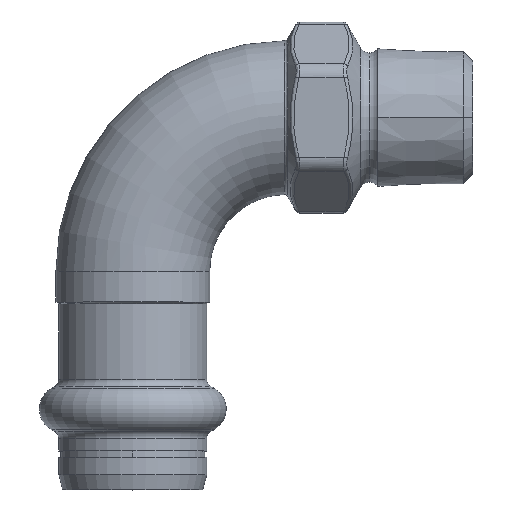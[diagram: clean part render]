
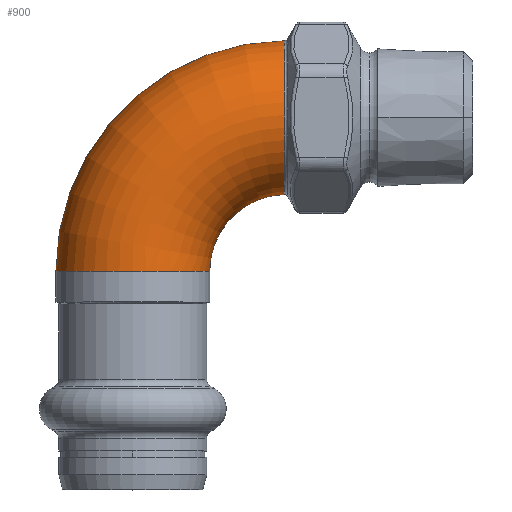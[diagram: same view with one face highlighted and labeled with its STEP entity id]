
A CAD part, top view. The second image highlights one B-rep face of the part: STEP entity #900.
In plain terms, the highlighted toroidal (fillet/blend) face has major radius 19 mm and minor radius 9.5 mm.
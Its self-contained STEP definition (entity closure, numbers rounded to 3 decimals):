
#45 = DIRECTION ( 'NONE',  ( 0., 0., 1. ) ) ;
#80 = AXIS2_PLACEMENT_3D ( 'NONE', #2177, #45, #2549 ) ;
#105 = DIRECTION ( 'NONE',  ( 0., 1., 0. ) ) ;
#206 = CARTESIAN_POINT ( 'NONE',  ( 18.698, -9.505, 0. ) ) ;
#208 = CARTESIAN_POINT ( 'NONE',  ( 18.704, -7.046, 6.405 ) ) ;
#226 = CARTESIAN_POINT ( 'NONE',  ( 18.711, -0.106, 9.504 ) ) ;
#235 = AXIS2_PLACEMENT_3D ( 'NONE', #3749, #4483, #2324 ) ;
#242 = CARTESIAN_POINT ( 'NONE',  ( 18.715, 7.668, 5.638 ) ) ;
#251 = AXIS2_PLACEMENT_3D ( 'NONE', #1404, #3917, #1772 ) ;
#543 = FACE_OUTER_BOUND ( 'NONE', #638, .T. ) ;
#545 = CARTESIAN_POINT ( 'NONE',  ( 18.698, -9.389, 1.599 ) ) ;
#567 = CARTESIAN_POINT ( 'NONE',  ( 18.705, -5.94, 7.423 ) ) ;
#584 = CARTESIAN_POINT ( 'NONE',  ( 18.712, 1.098, 9.455 ) ) ;
#597 = CARTESIAN_POINT ( 'NONE',  ( 18.715, 8.597, 4.084 ) ) ;
#609 = EDGE_CURVE ( 'NONE', #2268, #2518, #3086, .T. ) ;
#638 = EDGE_LOOP ( 'NONE', ( #2594, #4322, #4371, #1501, #4378 ) ) ;
#900 = ADVANCED_FACE ( 'NONE', ( #543 ), #4114, .T. ) ;
#913 = CARTESIAN_POINT ( 'NONE',  ( 18.706, -5.208, 7.953 ) ) ;
#931 = CARTESIAN_POINT ( 'NONE',  ( 18.713, 2.854, 9.08 ) ) ;
#951 = CARTESIAN_POINT ( 'NONE',  ( 18.715, 9.028, 2.968 ) ) ;
#1122 = CARTESIAN_POINT ( 'NONE',  ( 18.715, 9.499, 0. ) ) ;
#1252 = CARTESIAN_POINT ( 'NONE',  ( 18.699, -9.267, 2.197 ) ) ;
#1268 = CARTESIAN_POINT ( 'NONE',  ( 18.698, -9.47, 0.834 ) ) ;
#1271 = CARTESIAN_POINT ( 'NONE',  ( 18.708, -4.168, 8.543 ) ) ;
#1283 = CARTESIAN_POINT ( 'NONE',  ( 18.714, 4.519, 8.377 ) ) ;
#1297 = CARTESIAN_POINT ( 'NONE',  ( 18.715, 9.269, 2.096 ) ) ;
#1392 = EDGE_CURVE ( 'NONE', #2518, #3904, #2794, .T. ) ;
#1404 = CARTESIAN_POINT ( 'NONE',  ( 19., -19., 0. ) ) ;
#1475 = CIRCLE ( 'NONE', #2651, 9.5 ) ;
#1501 = ORIENTED_EDGE ( 'NONE', *, *, #1985, .F. ) ;
#1543 = EDGE_CURVE ( 'NONE', #3904, #3570, #1475, .T. ) ;
#1621 = CARTESIAN_POINT ( 'NONE',  ( 18.7, -8.689, 3.897 ) ) ;
#1631 = CARTESIAN_POINT ( 'NONE',  ( 18.709, -3.338, 8.9 ) ) ;
#1646 = CARTESIAN_POINT ( 'NONE',  ( 18.714, 5.771, 7.551 ) ) ;
#1666 = CARTESIAN_POINT ( 'NONE',  ( 18.715, 9.499, 0.606 ) ) ;
#1737 = B_SPLINE_CURVE_WITH_KNOTS ( 'NONE', 3,
 ( #206, #4113, #3421, #1268, #3773 ),
 .UNSPECIFIED., .F., .F.,
 ( 4, 1, 4 ),
 ( 0.03, 0.031, 0.031 ),
 .UNSPECIFIED. ) ;
#1772 = DIRECTION ( 'NONE',  ( 1., 0., 0. ) ) ;
#1829 = CARTESIAN_POINT ( 'NONE',  ( -9.5, -19., 0. ) ) ;
#1831 = VERTEX_POINT ( 'NONE', #2835 ) ;
#1985 = EDGE_CURVE ( 'NONE', #1831, #3570, #3334, .T. ) ;
#1991 = CARTESIAN_POINT ( 'NONE',  ( 18.702, -8.114, 4.957 ) ) ;
#2000 = CARTESIAN_POINT ( 'NONE',  ( 18.71, -1.897, 9.328 ) ) ;
#2019 = CARTESIAN_POINT ( 'NONE',  ( 18.715, 6.464, 6.967 ) ) ;
#2177 = CARTESIAN_POINT ( 'NONE',  ( 19., -19., 0. ) ) ;
#2191 = EDGE_CURVE ( 'NONE', #1831, #2268, #1737, .T. ) ;
#2236 = CARTESIAN_POINT ( 'NONE',  ( 0., -19., 0. ) ) ;
#2268 = VERTEX_POINT ( 'NONE', #2751 ) ;
#2324 = DIRECTION ( 'NONE',  ( 1., 0., 0. ) ) ;
#2332 = CARTESIAN_POINT ( 'NONE',  ( 9.5, -19., 0. ) ) ;
#2344 = CARTESIAN_POINT ( 'NONE',  ( 18.703, -7.607, 5.704 ) ) ;
#2360 = CARTESIAN_POINT ( 'NONE',  ( 18.711, -0.709, 9.478 ) ) ;
#2376 = CARTESIAN_POINT ( 'NONE',  ( 18.715, 7.298, 6.109 ) ) ;
#2518 = VERTEX_POINT ( 'NONE', #1122 ) ;
#2549 = DIRECTION ( 'NONE',  ( 1., 0., 0. ) ) ;
#2594 = ORIENTED_EDGE ( 'NONE', *, *, #609, .T. ) ;
#2608 = DIRECTION ( 'NONE',  ( -1., 0., 0. ) ) ;
#2651 = AXIS2_PLACEMENT_3D ( 'NONE', #2236, #105, #2608 ) ;
#2721 = CARTESIAN_POINT ( 'NONE',  ( 18.704, -6.629, 6.835 ) ) ;
#2733 = CARTESIAN_POINT ( 'NONE',  ( 18.711, 0.198, 9.503 ) ) ;
#2751 = CARTESIAN_POINT ( 'NONE',  ( 18.698, -9.452, 0.999 ) ) ;
#2756 = CARTESIAN_POINT ( 'NONE',  ( 18.715, 8.323, 4.618 ) ) ;
#2794 = CIRCLE ( 'NONE', #251, 28.5 ) ;
#2835 = CARTESIAN_POINT ( 'NONE',  ( 18.698, -9.505, 0. ) ) ;
#3061 = CARTESIAN_POINT ( 'NONE',  ( 18.698, -9.452, 0.999 ) ) ;
#3074 = CARTESIAN_POINT ( 'NONE',  ( 18.706, -5.7, 7.609 ) ) ;
#3086 = B_SPLINE_CURVE_WITH_KNOTS ( 'NONE', 3,
 ( #3061, #545, #1252, #3768, #1621, #4116, #1991, #4497, #2344, #208, #2721, #567, #3074, #913, #3423, #1271, #3775, #1631, #4140, #2000, #4510, #2360, #226, #2733, #584, #3092, #931, #3435, #1283, #3794, #1646, #4154, #2019, #4521, #2376, #242, #2756, #597, #3110, #951, #3449, #1297, #3814, #1666, #4166 ),
 .UNSPECIFIED., .F., .F.,
 ( 4, 2, 2, 2, 2, 2, 2, 1, 2, 2, 2, 2, 2, 2, 2, 2, 2, 2, 2, 2, 2, 2, 4 ),
 ( 0.031, 0.033, 0.035, 0.036, 0.037, 0.038, 0.039, 0.04, 0.041, 0.042, 0.044, 0.045, 0.046, 0.047, 0.049, 0.051, 0.052, 0.053, 0.055, 0.057, 0.057, 0.058, 0.06 ),
 .UNSPECIFIED. ) ;
#3092 = CARTESIAN_POINT ( 'NONE',  ( 18.712, 1.689, 9.367 ) ) ;
#3110 = CARTESIAN_POINT ( 'NONE',  ( 18.715, 8.93, 3.251 ) ) ;
#3334 = CIRCLE ( 'NONE', #80, 9.5 ) ;
#3421 = CARTESIAN_POINT ( 'NONE',  ( 18.698, -9.496, 0.502 ) ) ;
#3423 = CARTESIAN_POINT ( 'NONE',  ( 18.707, -4.702, 8.273 ) ) ;
#3435 = CARTESIAN_POINT ( 'NONE',  ( 18.713, 3.431, 8.878 ) ) ;
#3449 = CARTESIAN_POINT ( 'NONE',  ( 18.715, 9.198, 2.391 ) ) ;
#3570 = VERTEX_POINT ( 'NONE', #2332 ) ;
#3749 = CARTESIAN_POINT ( 'NONE',  ( 19., -19., 0. ) ) ;
#3768 = CARTESIAN_POINT ( 'NONE',  ( 18.7, -8.916, 3.345 ) ) ;
#3773 = CARTESIAN_POINT ( 'NONE',  ( 18.698, -9.452, 0.999 ) ) ;
#3775 = CARTESIAN_POINT ( 'NONE',  ( 18.708, -3.62, 8.789 ) ) ;
#3794 = CARTESIAN_POINT ( 'NONE',  ( 18.714, 5.036, 8.077 ) ) ;
#3814 = CARTESIAN_POINT ( 'NONE',  ( 18.715, 9.441, 1.206 ) ) ;
#3904 = VERTEX_POINT ( 'NONE', #1829 ) ;
#3917 = DIRECTION ( 'NONE',  ( 0., 0., 1. ) ) ;
#4113 = CARTESIAN_POINT ( 'NONE',  ( 18.698, -9.505, 0.168 ) ) ;
#4114 = TOROIDAL_SURFACE ( 'NONE', #235, 19., 9.5 ) ;
#4116 = CARTESIAN_POINT ( 'NONE',  ( 18.701, -8.268, 4.695 ) ) ;
#4140 = CARTESIAN_POINT ( 'NONE',  ( 18.709, -2.48, 9.191 ) ) ;
#4154 = CARTESIAN_POINT ( 'NONE',  ( 18.714, 6.01, 7.362 ) ) ;
#4166 = CARTESIAN_POINT ( 'NONE',  ( 18.715, 9.499, 0. ) ) ;
#4322 = ORIENTED_EDGE ( 'NONE', *, *, #1392, .T. ) ;
#4371 = ORIENTED_EDGE ( 'NONE', *, *, #1543, .T. ) ;
#4378 = ORIENTED_EDGE ( 'NONE', *, *, #2191, .T. ) ;
#4483 = DIRECTION ( 'NONE',  ( 0., 0., 1. ) ) ;
#4497 = CARTESIAN_POINT ( 'NONE',  ( 18.702, -7.783, 5.461 ) ) ;
#4510 = CARTESIAN_POINT ( 'NONE',  ( 18.711, -1.008, 9.451 ) ) ;
#4521 = CARTESIAN_POINT ( 'NONE',  ( 18.715, 6.68, 6.76 ) ) ;
